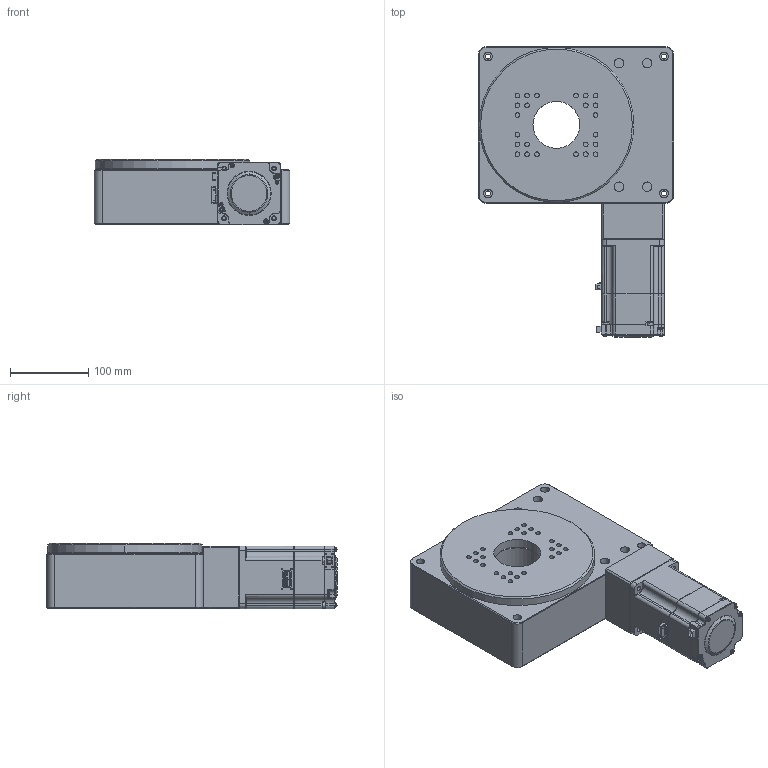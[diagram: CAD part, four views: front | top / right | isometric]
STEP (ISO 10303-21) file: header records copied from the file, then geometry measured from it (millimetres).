
FILE_DESCRIPTION (( 'STEP AP203' ), '1' );
FILE_NAME ('电动200高精转台换750w松下伺服电机.STEP', '2020-02-21T06:03:15', ( '' ), ( '' ), 'SwSTEP 2.0', 'SolidWorks 2016', '' );
FILE_SCHEMA (( 'CONFIG_CONTROL_DESIGN' ));
Length unit declared in the file: millimetre
Products named in the file (1): 电动200高精转台换750w松下伺服电机
Bounding box: 250 x 371.5 x 83.5 mm (x, y, z)
Surface area: 316748.1 mm2 (no closed solid volume)
Topology: 0 solids, 19 shells, 484 faces, 1517 edges, 1048 vertices
Faces by surface type: cylinder 208, plane 208, cone 32, sphere 18, torus 18
Entity records: 17131 total; most frequent: CARTESIAN_POINT 3199, DIRECTION 3054, ORIENTED_EDGE 2615, EDGE_CURVE 1509, AXIS2_PLACEMENT_3D 1099, VERTEX_POINT 1048, LINE 856, VECTOR 856
